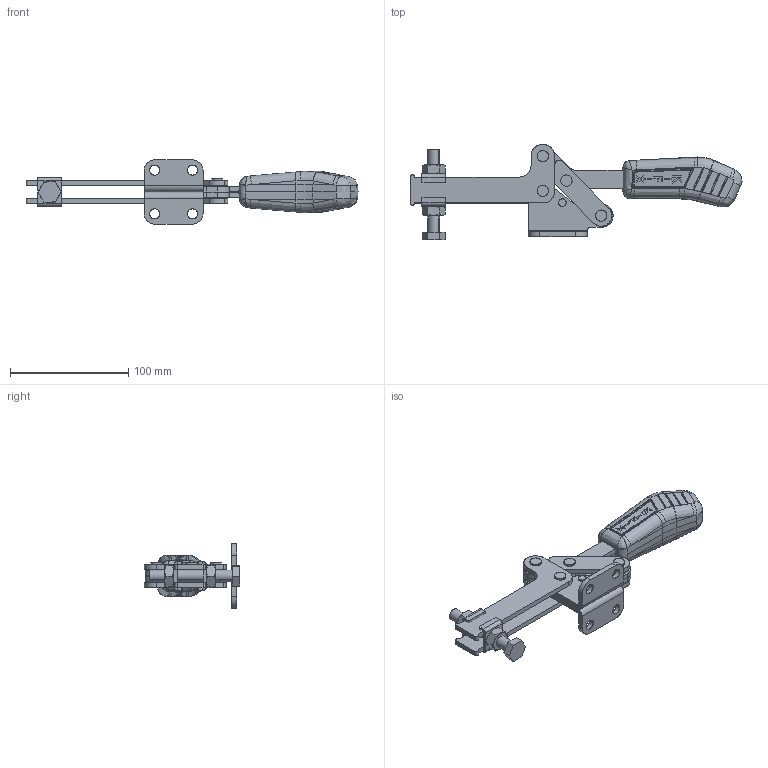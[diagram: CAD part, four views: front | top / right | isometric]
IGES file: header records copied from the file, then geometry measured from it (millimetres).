
Start section: SolidWorks IGES file using analytic representation for surfaces
Global section: file name: C:\Projetos\Grampos\KF-531\KF-531 DL\KF-531 DL.IGS; native system: SolidWorks 2013; preprocessor: SolidWorks 2013; author: Ricardo; date: 140818.113728; units: millimetre
Bounding box: 281.19 x 80.75 x 55 mm (x, y, z)
Surface area: 81570.3 mm2 (no closed solid volume)
Topology: 0 solids, 0 shells, 809 faces, 9568 edges, 9537 vertices
Faces by surface type: bspline 435, revolution 374
